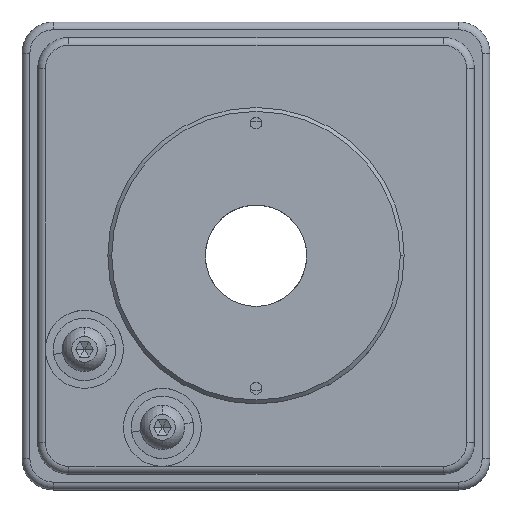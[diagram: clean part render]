
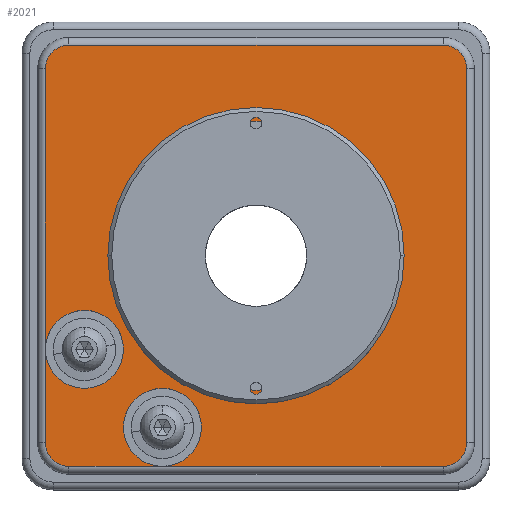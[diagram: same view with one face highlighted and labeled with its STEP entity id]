
A CAD part, top view. The second image highlights one B-rep face of the part: STEP entity #2021.
In plain terms, the highlighted planar face has unit normal (0, 0, 1).
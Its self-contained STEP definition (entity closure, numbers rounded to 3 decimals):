
#66 = CIRCLE ( 'NONE', #2624, 5. ) ;
#101 = DIRECTION ( 'NONE',  ( 0., 0., 1. ) ) ;
#133 = CIRCLE ( 'NONE', #2307, 3. ) ;
#194 = DIRECTION ( 'NONE',  ( 0., 0., 1. ) ) ;
#247 = ORIENTED_EDGE ( 'NONE', *, *, #3979, .F. ) ;
#349 = ORIENTED_EDGE ( 'NONE', *, *, #3582, .F. ) ;
#351 = VERTEX_POINT ( 'NONE', #3952 ) ;
#414 = CIRCLE ( 'NONE', #4240, 17.25 ) ;
#425 = DIRECTION ( 'NONE',  ( 0., 1., 0. ) ) ;
#426 = VERTEX_POINT ( 'NONE', #1403 ) ;
#427 = CARTESIAN_POINT ( 'NONE',  ( -12., -22., 18. ) ) ;
#552 = EDGE_CURVE ( 'NONE', #6175, #8358, #5426, .T. ) ;
#597 = CARTESIAN_POINT ( 'NONE',  ( 0., 0., 18. ) ) ;
#684 = CIRCLE ( 'NONE', #5012, 5. ) ;
#694 = VERTEX_POINT ( 'NONE', #8608 ) ;
#886 = AXIS2_PLACEMENT_3D ( 'NONE', #427, #5125, #1129 ) ;
#911 = VERTEX_POINT ( 'NONE', #3151 ) ;
#1052 = AXIS2_PLACEMENT_3D ( 'NONE', #4218, #194, #4898 ) ;
#1066 = CARTESIAN_POINT ( 'NONE',  ( -17.25, 0., 18. ) ) ;
#1129 = DIRECTION ( 'NONE',  ( 1., 0., 0. ) ) ;
#1284 = DIRECTION ( 'NONE',  ( 1., 0., 0. ) ) ;
#1305 = EDGE_CURVE ( 'NONE', #6132, #6766, #5510, .T. ) ;
#1309 = CARTESIAN_POINT ( 'NONE',  ( -24., 27., 18. ) ) ;
#1311 = EDGE_CURVE ( 'NONE', #694, #7020, #1953, .T. ) ;
#1403 = CARTESIAN_POINT ( 'NONE',  ( -17., -22., 18. ) ) ;
#1437 = CARTESIAN_POINT ( 'NONE',  ( 24., -27., 18. ) ) ;
#1517 = EDGE_CURVE ( 'NONE', #6766, #351, #6051, .T. ) ;
#1561 = CARTESIAN_POINT ( 'NONE',  ( 24., -27., 18. ) ) ;
#1672 = AXIS2_PLACEMENT_3D ( 'NONE', #8568, #6143, #2117 ) ;
#1682 = VECTOR ( 'NONE', #2234, 1000. ) ;
#1742 = CARTESIAN_POINT ( 'NONE',  ( -24., 27., 18. ) ) ;
#1865 = EDGE_CURVE ( 'NONE', #6582, #911, #66, .T. ) ;
#1875 = DIRECTION ( 'NONE',  ( -1., 0., 0. ) ) ;
#1953 = LINE ( 'NONE', #4385, #5294 ) ;
#1970 = CIRCLE ( 'NONE', #886, 5. ) ;
#2008 = DIRECTION ( 'NONE',  ( 0., 0., 1. ) ) ;
#2021 = ADVANCED_FACE ( 'NONE', ( #7734, #2599 ), #5492, .T. ) ;
#2069 = CARTESIAN_POINT ( 'NONE',  ( -22., -12., 18. ) ) ;
#2117 = DIRECTION ( 'NONE',  ( 1., 0., 0. ) ) ;
#2141 = VERTEX_POINT ( 'NONE', #5566 ) ;
#2144 = DIRECTION ( 'NONE',  ( 0., 0., 1. ) ) ;
#2234 = DIRECTION ( 'NONE',  ( 1., 0., 0. ) ) ;
#2307 = AXIS2_PLACEMENT_3D ( 'NONE', #4118, #101, #4802 ) ;
#2362 = ORIENTED_EDGE ( 'NONE', *, *, #7883, .T. ) ;
#2393 = DIRECTION ( 'NONE',  ( 1., 0., 0. ) ) ;
#2421 = CARTESIAN_POINT ( 'NONE',  ( -24., -27., 18. ) ) ;
#2599 = FACE_BOUND ( 'NONE', #7459, .T. ) ;
#2617 = EDGE_CURVE ( 'NONE', #7174, #6770, #3300, .T. ) ;
#2624 = AXIS2_PLACEMENT_3D ( 'NONE', #4380, #5051, #5759 ) ;
#2720 = DIRECTION ( 'NONE',  ( 0., 0., 1. ) ) ;
#2739 = DIRECTION ( 'NONE',  ( 1., 0., 0. ) ) ;
#2911 = DIRECTION ( 'NONE',  ( 0., -1., 0. ) ) ;
#3030 = CARTESIAN_POINT ( 'NONE',  ( 24., -24., 18. ) ) ;
#3063 = DIRECTION ( 'NONE',  ( 0., 0., 1. ) ) ;
#3079 = VERTEX_POINT ( 'NONE', #1437 ) ;
#3126 = CARTESIAN_POINT ( 'NONE',  ( -27., -24., 18. ) ) ;
#3140 = DIRECTION ( 'NONE',  ( 1., 0., 0. ) ) ;
#3151 = CARTESIAN_POINT ( 'NONE',  ( -27., -12., 18. ) ) ;
#3165 = VECTOR ( 'NONE', #2393, 1000. ) ;
#3212 = EDGE_CURVE ( 'NONE', #351, #911, #4020, .T. ) ;
#3300 = CIRCLE ( 'NONE', #6741, 3. ) ;
#3345 = ORIENTED_EDGE ( 'NONE', *, *, #6419, .T. ) ;
#3446 = ORIENTED_EDGE ( 'NONE', *, *, #552, .F. ) ;
#3482 = AXIS2_PLACEMENT_3D ( 'NONE', #3030, #7746, #3699 ) ;
#3582 = EDGE_CURVE ( 'NONE', #426, #6175, #7006, .T. ) ;
#3697 = ORIENTED_EDGE ( 'NONE', *, *, #1305, .T. ) ;
#3699 = DIRECTION ( 'NONE',  ( 1., 0., 0. ) ) ;
#3705 = VECTOR ( 'NONE', #1875, 1000. ) ;
#3808 = VECTOR ( 'NONE', #2911, 1000. ) ;
#3952 = CARTESIAN_POINT ( 'NONE',  ( -27., 24., 18. ) ) ;
#3979 = EDGE_CURVE ( 'NONE', #911, #6582, #684, .T. ) ;
#4020 = LINE ( 'NONE', #6277, #3808 ) ;
#4118 = CARTESIAN_POINT ( 'NONE',  ( 24., 24., 18. ) ) ;
#4192 = CARTESIAN_POINT ( 'NONE',  ( -17., -12., 18. ) ) ;
#4218 = CARTESIAN_POINT ( 'NONE',  ( 0., 0., 18. ) ) ;
#4240 = AXIS2_PLACEMENT_3D ( 'NONE', #597, #5290, #1284 ) ;
#4272 = AXIS2_PLACEMENT_3D ( 'NONE', #5754, #3063, #8427 ) ;
#4380 = CARTESIAN_POINT ( 'NONE',  ( -22., -12., 18. ) ) ;
#4385 = CARTESIAN_POINT ( 'NONE',  ( 27., 24., 18. ) ) ;
#4408 = ORIENTED_EDGE ( 'NONE', *, *, #8110, .T. ) ;
#4802 = DIRECTION ( 'NONE',  ( 1., 0., 0. ) ) ;
#4898 = DIRECTION ( 'NONE',  ( 1., 0., 0. ) ) ;
#4937 = ORIENTED_EDGE ( 'NONE', *, *, #5158, .T. ) ;
#4949 = CIRCLE ( 'NONE', #3482, 3. ) ;
#5012 = AXIS2_PLACEMENT_3D ( 'NONE', #2069, #6764, #2739 ) ;
#5051 = DIRECTION ( 'NONE',  ( 0., 0., 1. ) ) ;
#5070 = DIRECTION ( 'NONE',  ( 1., 0., 0. ) ) ;
#5125 = DIRECTION ( 'NONE',  ( 0., 0., 1. ) ) ;
#5158 = EDGE_CURVE ( 'NONE', #6770, #6175, #6762, .T. ) ;
#5264 = ORIENTED_EDGE ( 'NONE', *, *, #1865, .F. ) ;
#5290 = DIRECTION ( 'NONE',  ( 0., 0., 1. ) ) ;
#5294 = VECTOR ( 'NONE', #425, 1000. ) ;
#5426 = CIRCLE ( 'NONE', #6777, 5. ) ;
#5443 = CARTESIAN_POINT ( 'NONE',  ( 27., 24., 18. ) ) ;
#5492 = PLANE ( 'NONE',  #1672 ) ;
#5510 = LINE ( 'NONE', #1309, #3705 ) ;
#5566 = CARTESIAN_POINT ( 'NONE',  ( 17.25, 0., 18. ) ) ;
#5581 = ORIENTED_EDGE ( 'NONE', *, *, #1517, .T. ) ;
#5754 = CARTESIAN_POINT ( 'NONE',  ( -24., 24., 18. ) ) ;
#5759 = DIRECTION ( 'NONE',  ( 1., 0., 0. ) ) ;
#5790 = EDGE_CURVE ( 'NONE', #911, #7174, #7896, .T. ) ;
#5835 = CARTESIAN_POINT ( 'NONE',  ( -12., -22., 18. ) ) ;
#5851 = ORIENTED_EDGE ( 'NONE', *, *, #6152, .F. ) ;
#6021 = CARTESIAN_POINT ( 'NONE',  ( -24., -24., 18. ) ) ;
#6051 = CIRCLE ( 'NONE', #4272, 3. ) ;
#6070 = ORIENTED_EDGE ( 'NONE', *, *, #2617, .T. ) ;
#6132 = VERTEX_POINT ( 'NONE', #7955 ) ;
#6143 = DIRECTION ( 'NONE',  ( 0., 0., 1. ) ) ;
#6152 = EDGE_CURVE ( 'NONE', #8169, #2141, #414, .T. ) ;
#6175 = VERTEX_POINT ( 'NONE', #7348 ) ;
#6184 = CARTESIAN_POINT ( 'NONE',  ( -12., -22., 18. ) ) ;
#6215 = CIRCLE ( 'NONE', #1052, 17.25 ) ;
#6275 = ORIENTED_EDGE ( 'NONE', *, *, #6824, .F. ) ;
#6277 = CARTESIAN_POINT ( 'NONE',  ( -27., -24., 18. ) ) ;
#6410 = ORIENTED_EDGE ( 'NONE', *, *, #3212, .T. ) ;
#6419 = EDGE_CURVE ( 'NONE', #6175, #3079, #7051, .T. ) ;
#6582 = VERTEX_POINT ( 'NONE', #4192 ) ;
#6597 = EDGE_CURVE ( 'NONE', #2141, #8169, #6215, .T. ) ;
#6741 = AXIS2_PLACEMENT_3D ( 'NONE', #6021, #2008, #5070 ) ;
#6762 = LINE ( 'NONE', #7087, #3165 ) ;
#6764 = DIRECTION ( 'NONE',  ( 0., 0., 1. ) ) ;
#6766 = VERTEX_POINT ( 'NONE', #1742 ) ;
#6770 = VERTEX_POINT ( 'NONE', #2421 ) ;
#6777 = AXIS2_PLACEMENT_3D ( 'NONE', #5835, #2720, #3140 ) ;
#6824 = EDGE_CURVE ( 'NONE', #8358, #426, #1970, .T. ) ;
#6850 = DIRECTION ( 'NONE',  ( 1., 0., 0. ) ) ;
#6898 = ORIENTED_EDGE ( 'NONE', *, *, #6597, .F. ) ;
#7006 = CIRCLE ( 'NONE', #7626, 5. ) ;
#7020 = VERTEX_POINT ( 'NONE', #5443 ) ;
#7024 = EDGE_LOOP ( 'NONE', ( #6070, #4937, #349, #6275, #3446, #3345, #4408, #7824, #2362, #3697, #5581, #6410, #5264, #247, #7910 ) ) ;
#7051 = LINE ( 'NONE', #1561, #1682 ) ;
#7087 = CARTESIAN_POINT ( 'NONE',  ( 24., -27., 18. ) ) ;
#7174 = VERTEX_POINT ( 'NONE', #3126 ) ;
#7257 = CARTESIAN_POINT ( 'NONE',  ( -27., -24., 18. ) ) ;
#7348 = CARTESIAN_POINT ( 'NONE',  ( -12., -27., 18. ) ) ;
#7459 = EDGE_LOOP ( 'NONE', ( #6898, #5851 ) ) ;
#7626 = AXIS2_PLACEMENT_3D ( 'NONE', #6184, #2144, #6850 ) ;
#7734 = FACE_OUTER_BOUND ( 'NONE', #7024, .T. ) ;
#7746 = DIRECTION ( 'NONE',  ( 0., 0., 1. ) ) ;
#7824 = ORIENTED_EDGE ( 'NONE', *, *, #1311, .T. ) ;
#7883 = EDGE_CURVE ( 'NONE', #7020, #6132, #133, .T. ) ;
#7896 = LINE ( 'NONE', #7257, #8112 ) ;
#7910 = ORIENTED_EDGE ( 'NONE', *, *, #5790, .T. ) ;
#7913 = DIRECTION ( 'NONE',  ( 0., -1., 0. ) ) ;
#7955 = CARTESIAN_POINT ( 'NONE',  ( 24., 27., 18. ) ) ;
#8037 = CARTESIAN_POINT ( 'NONE',  ( -7., -22., 18. ) ) ;
#8110 = EDGE_CURVE ( 'NONE', #3079, #694, #4949, .T. ) ;
#8112 = VECTOR ( 'NONE', #7913, 1000. ) ;
#8169 = VERTEX_POINT ( 'NONE', #1066 ) ;
#8358 = VERTEX_POINT ( 'NONE', #8037 ) ;
#8427 = DIRECTION ( 'NONE',  ( 1., 0., 0. ) ) ;
#8568 = CARTESIAN_POINT ( 'NONE',  ( -28., -28., 18. ) ) ;
#8608 = CARTESIAN_POINT ( 'NONE',  ( 27., -24., 18. ) ) ;
